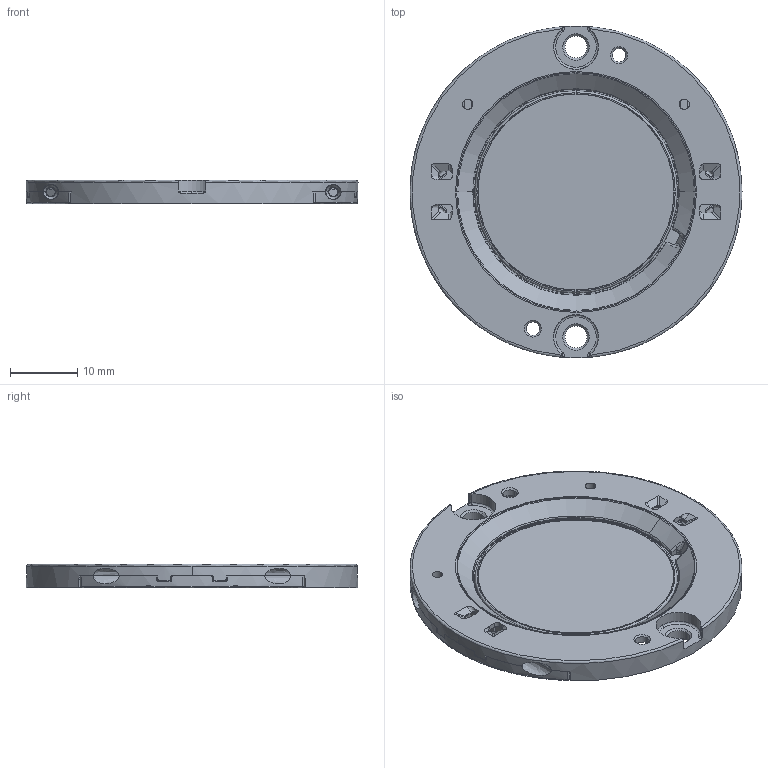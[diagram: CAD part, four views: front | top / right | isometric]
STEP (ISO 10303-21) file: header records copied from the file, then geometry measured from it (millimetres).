
FILE_DESCRIPTION (( 'STEP AP214' ), '1' );
FILE_NAME ('GEN8 Vero29 SE.STEP', '2020-09-15T02:44:48', ( '' ), ( '' ), 'SwSTEP 2.0', 'SolidWorks 2018', '' );
FILE_SCHEMA (( 'AUTOMOTIVE_DESIGN' ));
Length unit declared in the file: millimetre
Products named in the file (1): GEN8 Vero29 SE
Bounding box: 49.23 x 49.18 x 3.5 mm (x, y, z)
Volume: 3888.2 mm3; surface area: 8020.7 mm2
Topology: 8 solids, 8 shells, 2191 faces, 5978 edges, 3825 vertices
Faces by surface type: bspline 1224, plane 876, cylinder 85, torus 6
Entity records: 106242 total; most frequent: CARTESIAN_POINT 32556, ORIENTED_EDGE 11920, DIRECTION 8450, EDGE_CURVE 5960, VERTEX_POINT 3821, LINE 2972, VECTOR 2972, AXIS2_PLACEMENT_3D 2739
